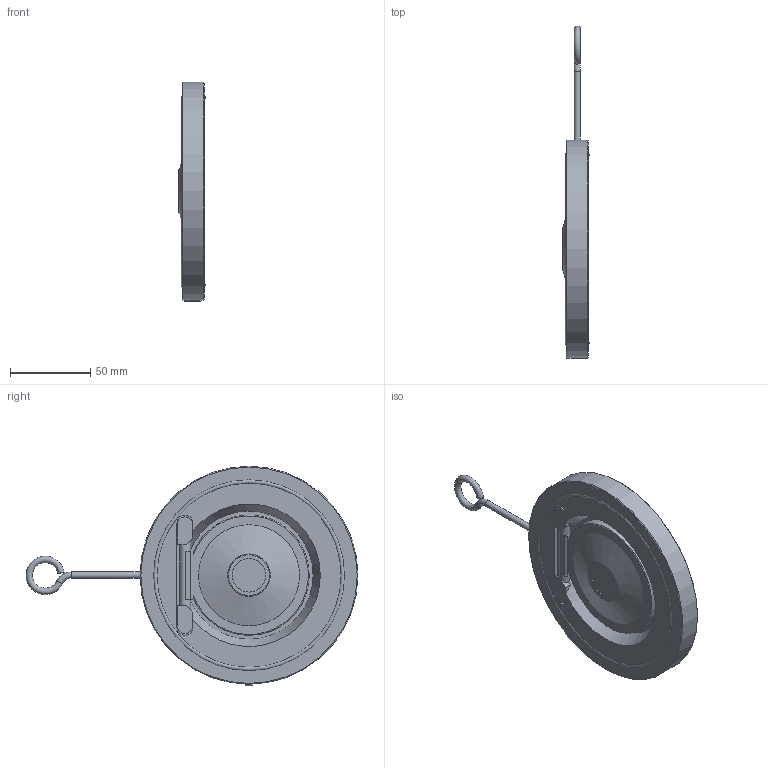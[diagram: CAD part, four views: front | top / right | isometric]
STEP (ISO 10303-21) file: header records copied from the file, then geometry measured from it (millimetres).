
FILE_DESCRIPTION(/* description */ (''),/* implementation_level */ '2;1');
FILE_NAME(/* name */ '944600352.stp',/* time_stamp */ '2025-05-02T13:32:53+02:00',/* author */ ('JJ'),/* organization */ (''),/* preprocessor_version */ 'ST-DEVELOPER v20',/* originating_system */ 'Autodesk Inventor 2025',/* authorisation */ '');
FILE_SCHEMA (('AUTOMOTIVE_DESIGN { 1 0 10303 214 3 1 1 }'));
Length unit declared in the file: millimetre
Products named in the file (1): 944600352
Bounding box: 16.41 x 207.15 x 137 mm (x, y, z)
Volume: 188340.9 mm3; surface area: 52662.4 mm2
Topology: 2 solids, 2 shells, 69 faces, 169 edges, 108 vertices
Faces by surface type: plane 36, cylinder 19, torus 6, bspline 4, cone 4
Full cylindrical faces by diameter (mm): 4 x1, 21 x1, 55 x1, 75 x1, 115 x1, 119 x1, 136 x1
Entity records: 2568 total; most frequent: CARTESIAN_POINT 881, DIRECTION 342, ORIENTED_EDGE 338, EDGE_CURVE 169, AXIS2_PLACEMENT_3D 128, VERTEX_POINT 108, LINE 86, VECTOR 86
